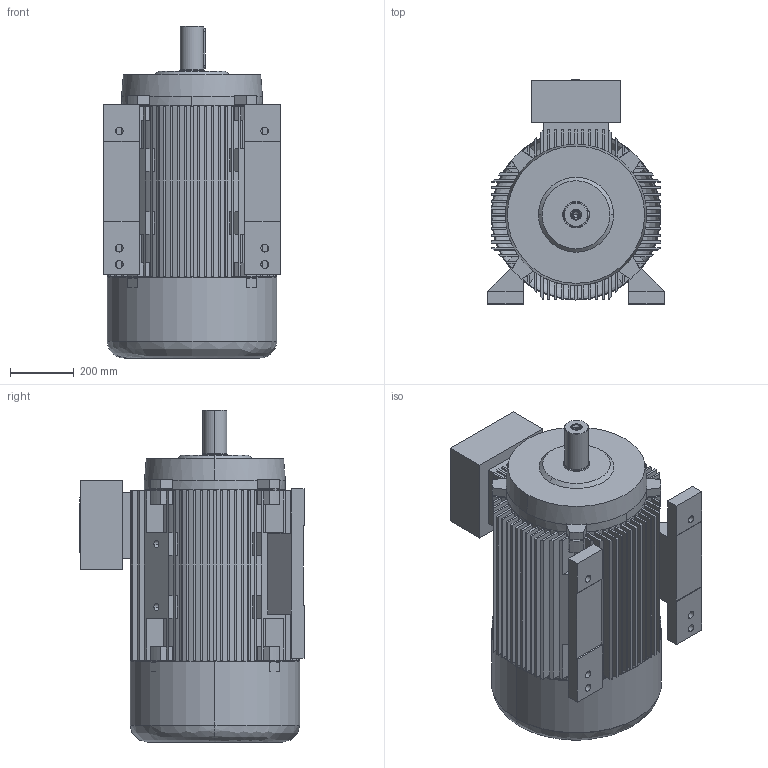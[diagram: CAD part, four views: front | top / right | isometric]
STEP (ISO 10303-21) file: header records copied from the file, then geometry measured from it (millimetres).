
FILE_DESCRIPTION (( 'STEP AP203' ), '1' );
FILE_NAME ('20.18377_A 7AZ 280S & M -4, -6 B3 STANDK.STEP', '2018-04-04T12:17:08', ( '' ), ( '' ), 'SwSTEP 2.0', 'SolidWorks 2017', '' );
FILE_SCHEMA (( 'CONFIG_CONTROL_DESIGN' ));
Length unit declared in the file: millimetre
Products named in the file (1): 20.18377_A  7AZ 280S & M -4, -6 B3 STANDK
Bounding box: 555 x 704 x 1043 mm (x, y, z)
Volume: 65485404.3 mm3; surface area: 8303650.5 mm2
Topology: 9 solids, 9 shells, 822 faces, 2195 edges, 1442 vertices
Faces by surface type: plane 646, cylinder 125, cone 38, bspline 13
Entity records: 26192 total; most frequent: CARTESIAN_POINT 5319, ORIENTED_EDGE 4354, DIRECTION 4252, EDGE_CURVE 2177, LINE 1638, VECTOR 1638, VERTEX_POINT 1442, AXIS2_PLACEMENT_3D 1307
